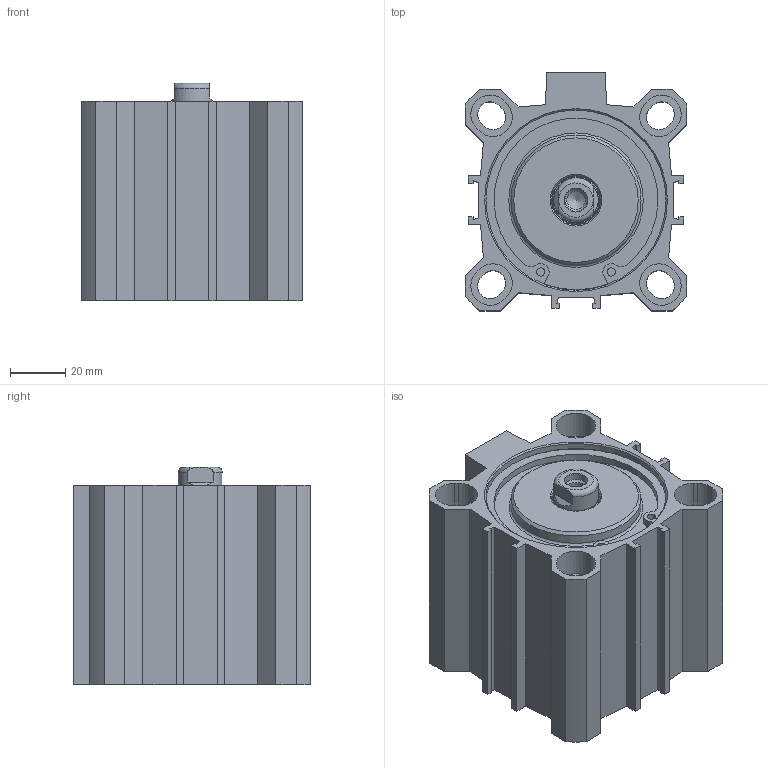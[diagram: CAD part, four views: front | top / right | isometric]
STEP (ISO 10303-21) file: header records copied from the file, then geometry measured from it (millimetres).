
FILE_DESCRIPTION(/* description */ ('Unknown'),/* implementation_level */ '2;1');
FILE_NAME(/* name */ 'FEN 63_30',/* time_stamp */ '2026-06-09T12:01:37+02:00',/* author */ ('Unknown'),/* organization */ ('Unknown'),/* preprocessor_version */ 'ST-DEVELOPER v18.102',/* originating_system */ 'Solid Edge',/* authorisation */ 'Unknown');
FILE_SCHEMA (('AUTOMOTIVE_DESIGN {1 0 10303 214 3 1 1}'));
Length unit declared in the file: millimetre
Products named in the file (5): FEN 63_30; Kolbenstange; Profilrohr; Kit_1; Kit_2
Assembly tree (4 placements, depth 2):
  FEN 63_30
    Kolbenstange
    Profilrohr
    Kit_1
    Kit_2
Bounding box: 80 x 86 x 78.5 mm (x, y, z)
Volume: 262143.8 mm3; surface area: 92746 mm2
Topology: 4 solids, 4 shells, 239 faces, 585 edges, 377 vertices
Faces by surface type: plane 131, cylinder 71, cone 27, torus 10
Full cylindrical faces by diameter (mm): 3 x4, 3.2 x2, 6.647 x2, 8.25 x1, 8.566 x4, 16 x1, 16.54 x1, 17.7 x1, 18 x1, 20.32 x1, 20.5 x1, 47 x2, 63 x2, 64.7 x4, 65.1 x2, 68.2 x2
Entity records: 8495 total; most frequent: CARTESIAN_POINT 1269, DIRECTION 1160, ORIENTED_EDGE 1010, EDGE_CURVE 505, AXIS2_PLACEMENT_3D 421, VERTEX_POINT 364, FACE_BOUND 345, EDGE_LOOP 344
